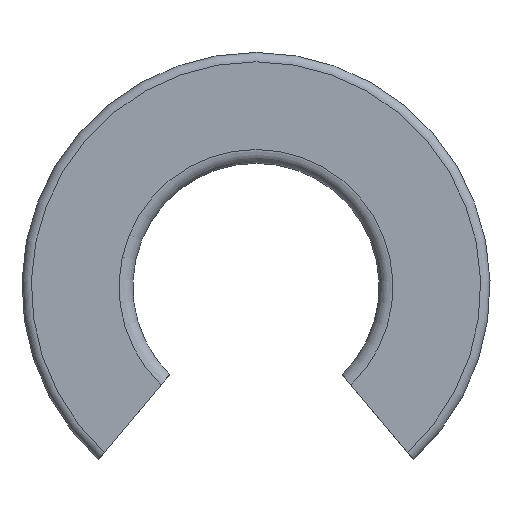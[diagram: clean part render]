
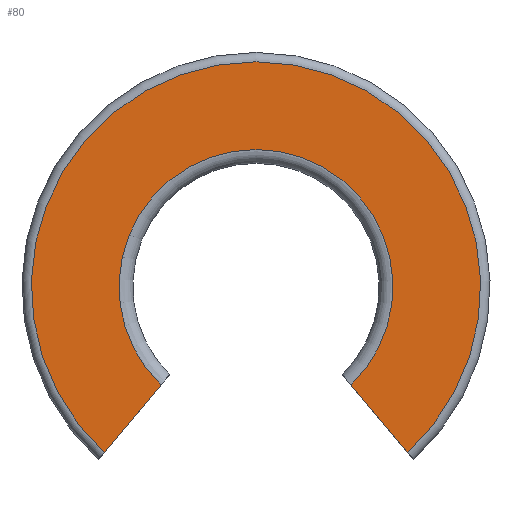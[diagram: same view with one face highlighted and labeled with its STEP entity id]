
A CAD part, left-side view. The second image highlights one B-rep face of the part: STEP entity #80.
In plain terms, the highlighted planar face has unit normal (-1, 0, 0).
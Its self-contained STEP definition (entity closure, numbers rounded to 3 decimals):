
#80=ADVANCED_FACE('',(#112),#113,.F.);
#112=FACE_OUTER_BOUND('',#164,.T.);
#113=PLANE('',#165);
#164=EDGE_LOOP('',(#261,#262,#263,#264));
#165=AXIS2_PLACEMENT_3D('',#265,#266,#267);
#261=ORIENTED_EDGE('',*,*,#428,.F.);
#262=ORIENTED_EDGE('',*,*,#454,.F.);
#263=ORIENTED_EDGE('',*,*,#462,.F.);
#264=ORIENTED_EDGE('',*,*,#463,.T.);
#265=CARTESIAN_POINT('',(0.0,9.119,0.0));
#266=DIRECTION('',(1.0,0.0,0.0));
#267=DIRECTION('',(0.0,0.0,-1.0));
#428=EDGE_CURVE('',#500,#501,#502,.T.);
#454=EDGE_CURVE('',#550,#500,#552,.T.);
#462=EDGE_CURVE('',#564,#550,#565,.T.);
#463=EDGE_CURVE('',#564,#501,#566,.T.);
#500=VERTEX_POINT('',#620);
#501=VERTEX_POINT('',#621);
#502=LINE('',#622,#623);
#550=VERTEX_POINT('',#710);
#552=CIRCLE('',#717,5.558);
#564=VERTEX_POINT('',#740);
#565=LINE('',#741,#742);
#566=CIRCLE('',#743,9.119);
#620=CARTESIAN_POINT('',(0.0,3.86,-3.999));
#621=CARTESIAN_POINT('',(0.0,6.152,-6.731));
#622=CARTESIAN_POINT('',(0.0,4.063,-4.242));
#623=VECTOR('',#820,1.0);
#710=CARTESIAN_POINT('',(0.0,-3.86,-3.999));
#717=AXIS2_PLACEMENT_3D('',#843,#844,#845);
#740=CARTESIAN_POINT('',(0.0,-6.152,-6.731));
#741=CARTESIAN_POINT('',(0.0,3.472,4.738));
#742=VECTOR('',#859,1.0);
#743=AXIS2_PLACEMENT_3D('',#860,#861,#862);
#820=DIRECTION('',(0.0,0.643,-0.766));
#843=CARTESIAN_POINT('',(0.0,0.0,0.0));
#844=DIRECTION('',(-1.0,0.0,0.0));
#845=DIRECTION('',(0.0,0.0,1.0));
#859=DIRECTION('',(0.0,0.643,0.766));
#860=CARTESIAN_POINT('',(0.0,0.0,0.0));
#861=DIRECTION('',(-1.0,0.0,0.0));
#862=DIRECTION('',(0.0,0.0,1.0));
